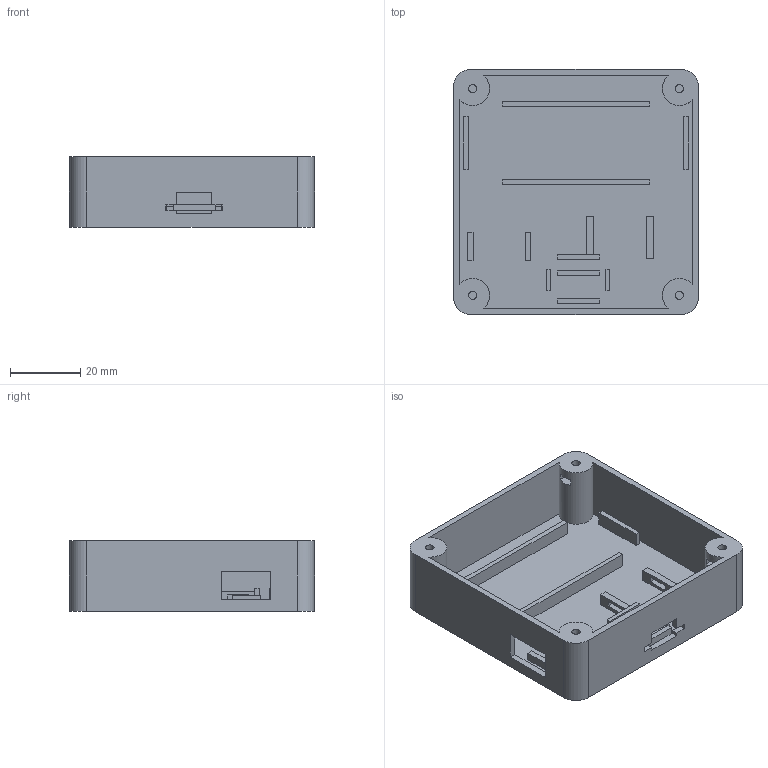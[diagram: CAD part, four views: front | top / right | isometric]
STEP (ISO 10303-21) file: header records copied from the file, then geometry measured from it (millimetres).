
FILE_DESCRIPTION(('Open CASCADE Model'),'2;1');
FILE_NAME('Open CASCADE Shape Model','2026-11-03T05:32:44',('Author'),( 'Open CASCADE'),'Open CASCADE STEP processor 7.9','Open CASCADE 7.9' ,'Unknown');
FILE_SCHEMA(('AUTOMOTIVE_DESIGN { 1 0 10303 214 1 1 1 1 }'));
Length unit declared in the file: millimetre
Products named in the file (1): Open CASCADE STEP translator 7.9 2
Bounding box: 70 x 70 x 20 mm (x, y, z)
Volume: 22963.8 mm3; surface area: 22329.7 mm2
Topology: 1 solids, 1 shells, 159 faces, 408 edges, 272 vertices
Faces by surface type: plane 143, cylinder 16
Full cylindrical faces by diameter (mm): 2.4 x8
Entity records: 10048 total; most frequent: CARTESIAN_POINT 1986, DIRECTION 1404, LINE 994, VECTOR 994, ORIENTED_EDGE 816, PCURVE 816, DEFINITIONAL_REPRESENTATION 816, EDGE_CURVE 408
